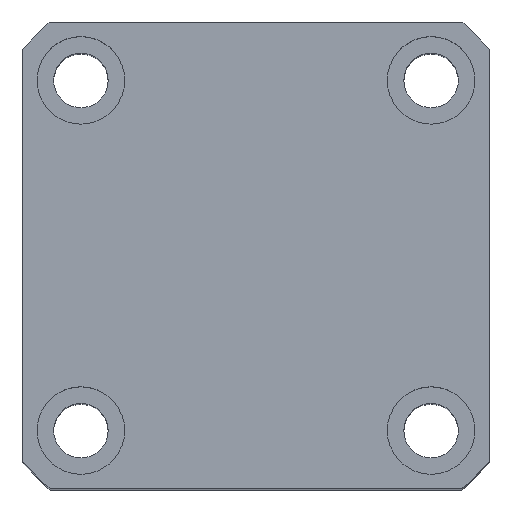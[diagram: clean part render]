
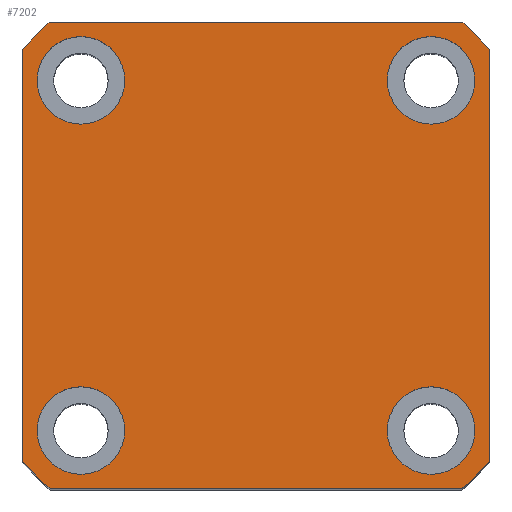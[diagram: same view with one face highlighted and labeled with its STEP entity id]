
A CAD part, top view. The second image highlights one B-rep face of the part: STEP entity #7202.
In plain terms, the highlighted planar face has unit normal (0, 0, 1) as drawn and (1, 0, 0) by its records, which use the part's own axes.
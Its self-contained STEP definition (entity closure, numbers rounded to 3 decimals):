
#58 = AXIS2_PLACEMENT_3D ( 'NONE', #8013, #7986, #7960 ) ;
#70 = LINE ( 'NONE', #6814, #4701 ) ;
#74 = VERTEX_POINT ( 'NONE', #5187 ) ;
#160 = ORIENTED_EDGE ( 'NONE', *, *, #6192, .T. ) ;
#234 = CIRCLE ( 'NONE', #4900, 4.5 ) ;
#284 = ORIENTED_EDGE ( 'NONE', *, *, #758, .T. ) ;
#303 = CARTESIAN_POINT ( 'NONE',  ( 65., -18., 13.5 ) ) ;
#360 = EDGE_CURVE ( 'NONE', #74, #494, #5068, .T. ) ;
#389 = ORIENTED_EDGE ( 'NONE', *, *, #6970, .T. ) ;
#441 = EDGE_CURVE ( 'NONE', #6412, #4352, #70, .T. ) ;
#494 = VERTEX_POINT ( 'NONE', #6928 ) ;
#518 = CIRCLE ( 'NONE', #58, 4.5 ) ;
#533 = AXIS2_PLACEMENT_3D ( 'NONE', #767, #755, #743 ) ;
#549 = EDGE_LOOP ( 'NONE', ( #759, #160, #4115, #284, #389, #1474, #1960, #611 ) ) ;
#554 = DIRECTION ( 'NONE',  ( 0., 0., -1. ) ) ;
#611 = ORIENTED_EDGE ( 'NONE', *, *, #2013, .T. ) ;
#730 = EDGE_CURVE ( 'NONE', #7782, #4246, #4184, .T. ) ;
#743 = DIRECTION ( 'NONE',  ( 0., 0., -1. ) ) ;
#755 = DIRECTION ( 'NONE',  ( 1., 0., 0. ) ) ;
#758 = EDGE_CURVE ( 'NONE', #1757, #1634, #5536, .T. ) ;
#759 = ORIENTED_EDGE ( 'NONE', *, *, #7003, .T. ) ;
#767 = CARTESIAN_POINT ( 'NONE',  ( 65., 0., 0. ) ) ;
#859 = FACE_BOUND ( 'NONE', #6653, .T. ) ;
#1063 = ORIENTED_EDGE ( 'NONE', *, *, #6717, .F. ) ;
#1066 = FACE_BOUND ( 'NONE', #2961, .T. ) ;
#1093 = DIRECTION ( 'NONE',  ( 0., 0., -1. ) ) ;
#1096 = DIRECTION ( 'NONE',  ( 1., 0., 0. ) ) ;
#1099 = CARTESIAN_POINT ( 'NONE',  ( 65., 0., 0. ) ) ;
#1219 = AXIS2_PLACEMENT_3D ( 'NONE', #7112, #3503, #7754 ) ;
#1260 = ORIENTED_EDGE ( 'NONE', *, *, #4980, .F. ) ;
#1303 = EDGE_CURVE ( 'NONE', #6672, #6122, #3248, .T. ) ;
#1305 = EDGE_CURVE ( 'NONE', #494, #74, #234, .T. ) ;
#1474 = ORIENTED_EDGE ( 'NONE', *, *, #1869, .T. ) ;
#1634 = VERTEX_POINT ( 'NONE', #3398 ) ;
#1699 = CARTESIAN_POINT ( 'NONE',  ( 65., 24., 24. ) ) ;
#1701 = AXIS2_PLACEMENT_3D ( 'NONE', #1941, #1930, #1886 ) ;
#1757 = VERTEX_POINT ( 'NONE', #2427 ) ;
#1776 = DIRECTION ( 'NONE',  ( 1., 0., 0. ) ) ;
#1850 = LINE ( 'NONE', #3267, #5169 ) ;
#1864 = AXIS2_PLACEMENT_3D ( 'NONE', #6053, #2359, #6665 ) ;
#1869 = EDGE_CURVE ( 'NONE', #2543, #6412, #6554, .T. ) ;
#1886 = DIRECTION ( 'NONE',  ( 0., 0., -1. ) ) ;
#1921 = DIRECTION ( 'NONE',  ( 0., 0., -1. ) ) ;
#1930 = DIRECTION ( 'NONE',  ( 1., 0., 0. ) ) ;
#1933 = DIRECTION ( 'NONE',  ( 1., 0., 0. ) ) ;
#1936 = CARTESIAN_POINT ( 'NONE',  ( 65., 0., 0. ) ) ;
#1941 = CARTESIAN_POINT ( 'NONE',  ( 65., 18., -18. ) ) ;
#1960 = ORIENTED_EDGE ( 'NONE', *, *, #441, .T. ) ;
#2013 = EDGE_CURVE ( 'NONE', #4352, #5529, #4406, .T. ) ;
#2359 = DIRECTION ( 'NONE',  ( 1., 0., 0. ) ) ;
#2371 = CARTESIAN_POINT ( 'NONE',  ( 65., 24., -21.166 ) ) ;
#2427 = CARTESIAN_POINT ( 'NONE',  ( 65., 24., 21.166 ) ) ;
#2498 = CARTESIAN_POINT ( 'NONE',  ( 65., 18., 18. ) ) ;
#2543 = VERTEX_POINT ( 'NONE', #2649 ) ;
#2576 = AXIS2_PLACEMENT_3D ( 'NONE', #1099, #1096, #1093 ) ;
#2649 = CARTESIAN_POINT ( 'NONE',  ( 65., -21.166, 24. ) ) ;
#2665 = EDGE_LOOP ( 'NONE', ( #2691, #7778 ) ) ;
#2691 = ORIENTED_EDGE ( 'NONE', *, *, #360, .F. ) ;
#2731 = AXIS2_PLACEMENT_3D ( 'NONE', #2498, #6782, #3148 ) ;
#2749 = AXIS2_PLACEMENT_3D ( 'NONE', #8005, #4378, #554 ) ;
#2845 = VERTEX_POINT ( 'NONE', #2371 ) ;
#2961 = EDGE_LOOP ( 'NONE', ( #1260, #4173 ) ) ;
#3030 = CARTESIAN_POINT ( 'NONE',  ( 65., 18., 22.5 ) ) ;
#3148 = DIRECTION ( 'NONE',  ( 0., 0., -1. ) ) ;
#3197 = CARTESIAN_POINT ( 'NONE',  ( 65., -24., -21.166 ) ) ;
#3248 = CIRCLE ( 'NONE', #4146, 4.5 ) ;
#3267 = CARTESIAN_POINT ( 'NONE',  ( 65., 24., 24. ) ) ;
#3398 = CARTESIAN_POINT ( 'NONE',  ( 65., 21.166, 24. ) ) ;
#3401 = VECTOR ( 'NONE', #4554, 1000. ) ;
#3460 = EDGE_CURVE ( 'NONE', #4289, #8068, #518, .T. ) ;
#3503 = DIRECTION ( 'NONE',  ( 1., 0., 0. ) ) ;
#3506 = VECTOR ( 'NONE', #4873, 1000. ) ;
#3756 = VERTEX_POINT ( 'NONE', #7996 ) ;
#3946 = DIRECTION ( 'NONE',  ( 0., -1., 0. ) ) ;
#4054 = AXIS2_PLACEMENT_3D ( 'NONE', #6738, #6745, #6746 ) ;
#4115 = ORIENTED_EDGE ( 'NONE', *, *, #5530, .T. ) ;
#4146 = AXIS2_PLACEMENT_3D ( 'NONE', #6462, #6451, #6424 ) ;
#4173 = ORIENTED_EDGE ( 'NONE', *, *, #730, .F. ) ;
#4184 = CIRCLE ( 'NONE', #1701, 4.5 ) ;
#4246 = VERTEX_POINT ( 'NONE', #7852 ) ;
#4289 = VERTEX_POINT ( 'NONE', #3030 ) ;
#4352 = VERTEX_POINT ( 'NONE', #3197 ) ;
#4378 = DIRECTION ( 'NONE',  ( 1., 0., 0. ) ) ;
#4406 = CIRCLE ( 'NONE', #533, 32. ) ;
#4454 = FACE_BOUND ( 'NONE', #4768, .T. ) ;
#4554 = DIRECTION ( 'NONE',  ( 0., 1., 0. ) ) ;
#4682 = CARTESIAN_POINT ( 'NONE',  ( 65., 18., 13.5 ) ) ;
#4701 = VECTOR ( 'NONE', #6769, 1000. ) ;
#4768 = EDGE_LOOP ( 'NONE', ( #6708, #6877 ) ) ;
#4873 = DIRECTION ( 'NONE',  ( 0., 0., 1. ) ) ;
#4900 = AXIS2_PLACEMENT_3D ( 'NONE', #6366, #6362, #6353 ) ;
#4973 = LINE ( 'NONE', #5125, #3401 ) ;
#4980 = EDGE_CURVE ( 'NONE', #4246, #7782, #5369, .T. ) ;
#5068 = CIRCLE ( 'NONE', #4054, 4.5 ) ;
#5125 = CARTESIAN_POINT ( 'NONE',  ( 65., 24., -24. ) ) ;
#5169 = VECTOR ( 'NONE', #3946, 1000. ) ;
#5187 = CARTESIAN_POINT ( 'NONE',  ( 65., -18., -22.5 ) ) ;
#5309 = CARTESIAN_POINT ( 'NONE',  ( 65., -18., 22.5 ) ) ;
#5369 = CIRCLE ( 'NONE', #1219, 4.5 ) ;
#5438 = CIRCLE ( 'NONE', #2749, 4.5 ) ;
#5487 = CARTESIAN_POINT ( 'NONE',  ( 65., 0., 0. ) ) ;
#5529 = VERTEX_POINT ( 'NONE', #7939 ) ;
#5530 = EDGE_CURVE ( 'NONE', #2845, #1757, #5652, .T. ) ;
#5536 = CIRCLE ( 'NONE', #2576, 32. ) ;
#5641 = CIRCLE ( 'NONE', #7538, 32. ) ;
#5652 = LINE ( 'NONE', #1699, #3506 ) ;
#5822 = ORIENTED_EDGE ( 'NONE', *, *, #3460, .F. ) ;
#5826 = FACE_BOUND ( 'NONE', #2665, .T. ) ;
#6053 = CARTESIAN_POINT ( 'NONE',  ( 65., 0., 0. ) ) ;
#6112 = DIRECTION ( 'NONE',  ( 0., 0., -1. ) ) ;
#6114 = AXIS2_PLACEMENT_3D ( 'NONE', #1936, #1933, #1921 ) ;
#6122 = VERTEX_POINT ( 'NONE', #5309 ) ;
#6192 = EDGE_CURVE ( 'NONE', #3756, #2845, #5641, .T. ) ;
#6353 = DIRECTION ( 'NONE',  ( 0., 0., -1. ) ) ;
#6362 = DIRECTION ( 'NONE',  ( 1., 0., 0. ) ) ;
#6366 = CARTESIAN_POINT ( 'NONE',  ( 65., -18., -18. ) ) ;
#6412 = VERTEX_POINT ( 'NONE', #7491 ) ;
#6424 = DIRECTION ( 'NONE',  ( 0., 0., -1. ) ) ;
#6451 = DIRECTION ( 'NONE',  ( 1., 0., 0. ) ) ;
#6462 = CARTESIAN_POINT ( 'NONE',  ( 65., -18., 18. ) ) ;
#6554 = CIRCLE ( 'NONE', #6114, 32. ) ;
#6653 = EDGE_LOOP ( 'NONE', ( #1063, #5822 ) ) ;
#6665 = DIRECTION ( 'NONE',  ( 0., 0., -1. ) ) ;
#6672 = VERTEX_POINT ( 'NONE', #303 ) ;
#6703 = CARTESIAN_POINT ( 'NONE',  ( 65., 18., -13.5 ) ) ;
#6708 = ORIENTED_EDGE ( 'NONE', *, *, #1303, .F. ) ;
#6717 = EDGE_CURVE ( 'NONE', #8068, #4289, #7362, .T. ) ;
#6738 = CARTESIAN_POINT ( 'NONE',  ( 65., -18., -18. ) ) ;
#6745 = DIRECTION ( 'NONE',  ( 1., 0., 0. ) ) ;
#6746 = DIRECTION ( 'NONE',  ( 0., 0., -1. ) ) ;
#6769 = DIRECTION ( 'NONE',  ( 0., 0., -1. ) ) ;
#6782 = DIRECTION ( 'NONE',  ( 1., 0., 0. ) ) ;
#6814 = CARTESIAN_POINT ( 'NONE',  ( 65., -24., 24. ) ) ;
#6877 = ORIENTED_EDGE ( 'NONE', *, *, #7290, .F. ) ;
#6928 = CARTESIAN_POINT ( 'NONE',  ( 65., -18., -13.5 ) ) ;
#6970 = EDGE_CURVE ( 'NONE', #1634, #2543, #1850, .T. ) ;
#7003 = EDGE_CURVE ( 'NONE', #5529, #3756, #4973, .T. ) ;
#7112 = CARTESIAN_POINT ( 'NONE',  ( 65., 18., -18. ) ) ;
#7202 = ADVANCED_FACE ( 'NONE', ( #5826, #4454, #1066, #859, #7260 ), #7896, .T. ) ;
#7260 = FACE_OUTER_BOUND ( 'NONE', #549, .T. ) ;
#7290 = EDGE_CURVE ( 'NONE', #6122, #6672, #5438, .T. ) ;
#7362 = CIRCLE ( 'NONE', #2731, 4.5 ) ;
#7491 = CARTESIAN_POINT ( 'NONE',  ( 65., -24., 21.166 ) ) ;
#7538 = AXIS2_PLACEMENT_3D ( 'NONE', #5487, #1776, #6112 ) ;
#7754 = DIRECTION ( 'NONE',  ( 0., 0., -1. ) ) ;
#7778 = ORIENTED_EDGE ( 'NONE', *, *, #1305, .F. ) ;
#7782 = VERTEX_POINT ( 'NONE', #6703 ) ;
#7852 = CARTESIAN_POINT ( 'NONE',  ( 65., 18., -22.5 ) ) ;
#7896 = PLANE ( 'NONE',  #1864 ) ;
#7939 = CARTESIAN_POINT ( 'NONE',  ( 65., -21.166, -24. ) ) ;
#7960 = DIRECTION ( 'NONE',  ( 0., 0., -1. ) ) ;
#7986 = DIRECTION ( 'NONE',  ( 1., 0., 0. ) ) ;
#7996 = CARTESIAN_POINT ( 'NONE',  ( 65., 21.166, -24. ) ) ;
#8005 = CARTESIAN_POINT ( 'NONE',  ( 65., -18., 18. ) ) ;
#8013 = CARTESIAN_POINT ( 'NONE',  ( 65., 18., 18. ) ) ;
#8068 = VERTEX_POINT ( 'NONE', #4682 ) ;
